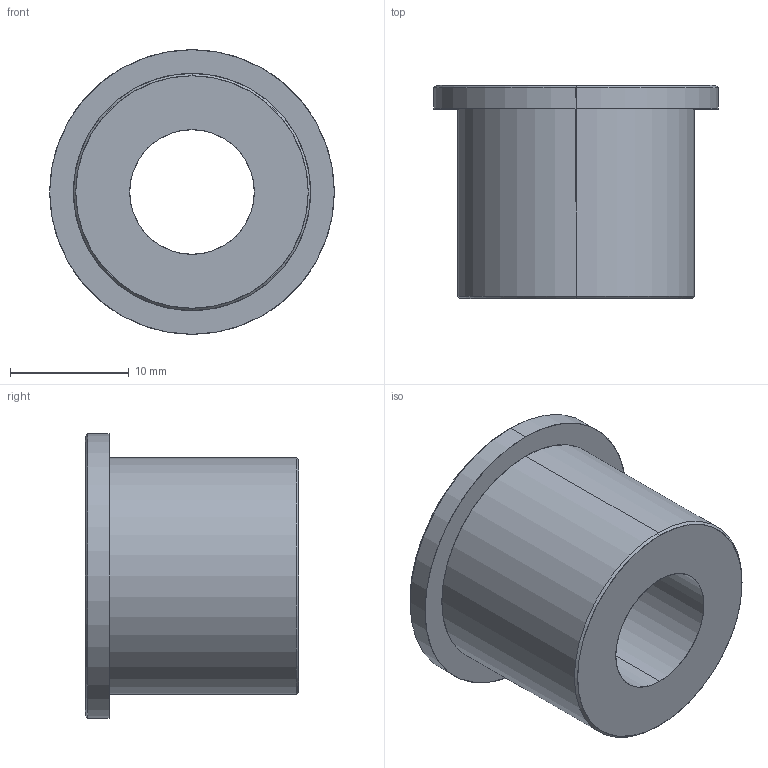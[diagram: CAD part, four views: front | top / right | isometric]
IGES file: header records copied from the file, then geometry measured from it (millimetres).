
Start section: SolidWorks IGES file using analytic representation for surfaces
Global section: file name: C:\Documents and Settings\CAD53\デスクトップ\IGES\N01868-409-1.IGS; native system: SolidWorks 2005 by SolidWorks Corporation; preprocessor: SolidWorks 2005 by SolidWorks Corporation; author: CAD53; date: 070530.115722; units: millimetre
Bounding box: 24 x 18 x 24 mm (x, y, z)
Surface area: 2465.2 mm2 (no closed solid volume)
Topology: 0 solids, 0 shells, 13 faces, 232 edges, 232 vertices
Faces by surface type: revolution 10, bspline 3
